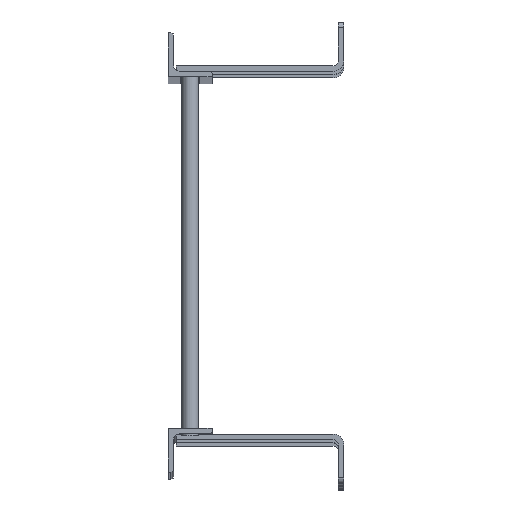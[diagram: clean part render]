
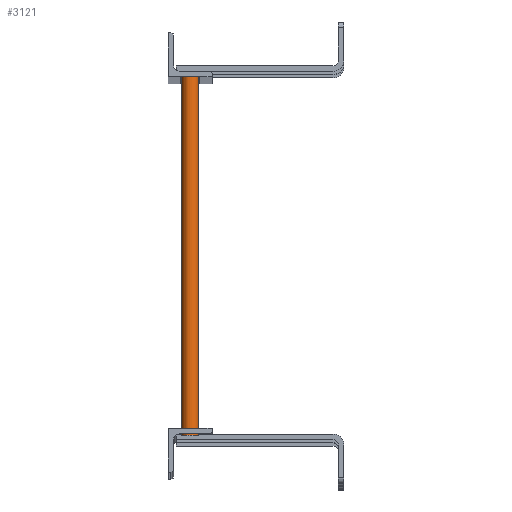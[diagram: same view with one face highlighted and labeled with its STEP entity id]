
A CAD part, top view. The second image highlights one B-rep face of the part: STEP entity #3121.
In plain terms, the highlighted cylindrical face has radius 9.525 mm (diameter 19.05 mm), a full revolution.
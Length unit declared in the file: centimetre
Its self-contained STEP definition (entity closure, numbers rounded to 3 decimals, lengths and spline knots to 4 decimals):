
#550=FACE_BOUND('',#869,.T.);
#680=FACE_OUTER_BOUND('',#868,.T.);
#868=EDGE_LOOP('',(#2050));
#869=EDGE_LOOP('',(#2051));
#1186=CIRCLE('',#3329,0.9525);
#1187=CIRCLE('',#3330,0.9525);
#1368=VERTEX_POINT('',#4650);
#1369=VERTEX_POINT('',#4652);
#1660=EDGE_CURVE('',#1368,#1368,#1186,.T.);
#1661=EDGE_CURVE('',#1369,#1369,#1187,.T.);
#2050=ORIENTED_EDGE('',*,*,#1660,.T.);
#2051=ORIENTED_EDGE('',*,*,#1661,.F.);
#2830=CYLINDRICAL_SURFACE('',#3328,0.9525);
#3121=ADVANCED_FACE('',(#680,#550),#2830,.T.);
#3328=AXIS2_PLACEMENT_3D('',#4649,#3700,#3701);
#3329=AXIS2_PLACEMENT_3D('',#4651,#3702,#3703);
#3330=AXIS2_PLACEMENT_3D('',#4653,#3704,#3705);
#3700=DIRECTION('center_axis',(0.,-1.,0.));
#3701=DIRECTION('ref_axis',(1.,0.,0.));
#3702=DIRECTION('center_axis',(0.,1.,0.));
#3703=DIRECTION('ref_axis',(1.,0.,0.));
#3704=DIRECTION('center_axis',(0.,1.,0.));
#3705=DIRECTION('ref_axis',(1.,0.,0.));
#4649=CARTESIAN_POINT('Origin',(2.54,0.4762,461.01));
#4650=CARTESIAN_POINT('',(1.5875,-41.4338,461.01));
#4651=CARTESIAN_POINT('Origin',(2.54,-41.4338,461.01));
#4652=CARTESIAN_POINT('',(1.5875,0.4762,461.01));
#4653=CARTESIAN_POINT('Origin',(2.54,0.4762,461.01));
